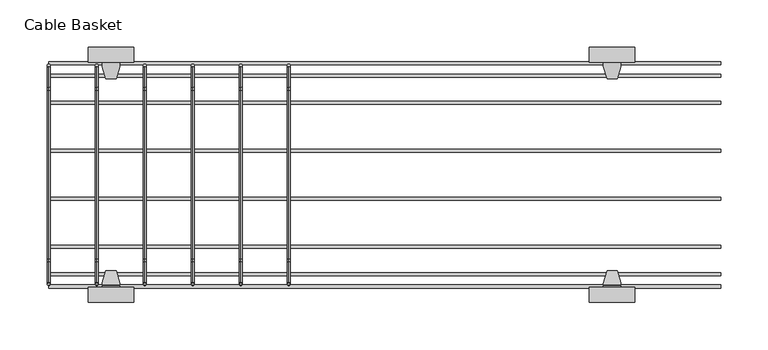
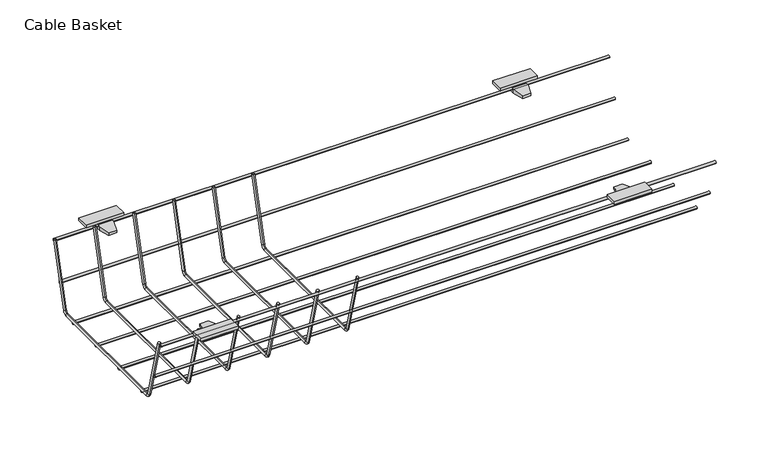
"""IFC4 building model written with IfcOpenShell, lengths in millimetres: furniture geometry, Senator_Lockers_SenseiQ_CableBasket : Cable Basket."""

from ifc_helpers import new_model, si_unit, point, frame, frame_2d, origin, place, context, project, spatial, polyline, circle_curve, ellipse_curve, trimmed, segment, composite_curve, outline, extrude, faceted_brep, source, transform, mapped, element, save
from ifc_brep_helpers import plane_surface, cylinder_surface, revolved_surface, advanced_brep


def cable_basket_caa5d707(model_context):
    return source(origin(), model_context, "Body", "SolidModel", [
        advanced_brep(
        [(5.9, -117.1901079, 90.4858785), (5.9, -114.0991453, 91.3140995), (5.9, -95.0858753, 7.9917594), (5.9, -91.9949127, 8.8199804), (5.9, -88.7107649, 6.2999651), (5.9, -88.7107649, 3.0999651), (5.9, 88.710803, 3.0999651), (5.9, 88.710803, 6.2999651), (5.9, 91.9949508, 8.8199804), (5.9, 95.0859135, 7.9917594), (5.9, 117.1901461, 90.4858785), (5.9, 114.0991834, 91.3140995)],
        [
            (0, 1, circle_curve(frame((5.9, -115.6446266, 90.899989), z_axis=(0.0, -0.25881904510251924, 0.9659258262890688), x_axis=(0.0, 0.9659258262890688, 0.25881904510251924)), 1.6)),
            (1, 0, circle_curve(frame((5.9, -115.6446266, 90.899989), z_axis=(0.0, -0.25881904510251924, 0.9659258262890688), x_axis=(0.0, 0.9659258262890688, 0.25881904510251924)), 1.6)),
            (0, 2),
            (2, 3, circle_curve(frame((5.9, -93.540394, 8.4058699), z_axis=(0.0, -0.25881904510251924, 0.9659258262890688), x_axis=(0.0, 0.9659258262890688, 0.25881904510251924)), 1.6)),
            (3, 1),
            (3, 2, circle_curve(frame((5.9, -93.540394, 8.4058699), z_axis=(0.0, -0.25881904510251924, 0.9659258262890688), x_axis=(0.0, 0.9659258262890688, 0.25881904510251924)), 1.6)),
            (4, 5, circle_curve(frame((5.9, -88.7107649, 4.6999651), z_axis=(0.0, 1.0, 0.0), x_axis=(0.0, 0.0, 1.0)), 1.6)),
            (5, 6),
            (6, 7, circle_curve(frame((5.9, 88.710803, 4.6999651), z_axis=(0.0, -1.0, 0.0), x_axis=(0.0, 0.0, 1.0)), 1.6)),
            (7, 4),
            (5, 4, circle_curve(frame((5.9, -88.7107649, 4.6999651), z_axis=(0.0, 1.0, 0.0), x_axis=(0.0, 0.0, 1.0)), 1.6)),
            (7, 6, circle_curve(frame((5.9, 88.710803, 4.6999651), z_axis=(0.0, -1.0, 0.0), x_axis=(0.0, 0.0, 1.0)), 1.6)),
            (8, 7, circle_curve(frame((5.9, 88.710803, 9.6999651), z_axis=(-1.0, 0.0, 0.0), x_axis=(0.0, 0.0, -1.0)), 3.4)),
            (6, 9, circle_curve(frame((5.9, 88.710803, 9.6999651), z_axis=(1.0, 0.0, 0.0), x_axis=(0.0, 0.0, -1.0)), 6.6)),
            (9, 8, circle_curve(frame((5.9, 93.5404322, 8.4058699), z_axis=(0.0, -0.2588190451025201, -0.9659258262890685), x_axis=(0.0, -0.9659258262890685, 0.2588190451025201)), 1.6)),
            (8, 9, circle_curve(frame((5.9, 93.5404322, 8.4058699), z_axis=(0.0, -0.25881904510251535, -0.9659258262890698), x_axis=(0.0, -0.9659258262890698, 0.25881904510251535)), 1.6)),
            (10, 11, circle_curve(frame((5.9, 115.6446648, 90.899989), z_axis=(0.0, 0.25881904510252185, 0.965925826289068), x_axis=(0.0, -0.965925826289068, 0.25881904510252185)), 1.6)),
            (11, 10, circle_curve(frame((5.9, 115.6446648, 90.899989), z_axis=(0.0, 0.25881904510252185, 0.965925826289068), x_axis=(0.0, -0.965925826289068, 0.25881904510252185)), 1.6)),
            (9, 10),
            (11, 8),
            (4, 3, circle_curve(frame((5.9, -88.7107649, 9.6999651), z_axis=(-1.0, 0.0, 0.0), x_axis=(0.0, -0.9659258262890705, -0.2588190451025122)), 3.4)),
            (2, 5, circle_curve(frame((5.9, -88.7107649, 9.6999651), z_axis=(1.0, 0.0, 0.0), x_axis=(0.0, -0.9659258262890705, -0.2588190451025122)), 6.6)),
        ],
        [
            plane_surface(frame((5.9, -115.6446266, 90.899989), z_axis=(0.0, -0.25881904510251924, 0.9659258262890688), x_axis=(1.0, 0.0, 0.0))),
            cylinder_surface(frame((5.9, -115.6446266, 90.899989), z_axis=(0.0, -0.25881904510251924, 0.9659258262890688), x_axis=(0.0, 0.9659258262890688, 0.25881904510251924)), 1.6),
            cylinder_surface(frame((5.9, -88.7107649, 4.6999651), z_axis=(0.0, -1.0, 0.0), x_axis=(0.0, 0.0, 1.0)), 1.6),
            revolved_surface(trimmed(ellipse_curve(frame((5.9, 88.710803, 4.6999651), z_axis=(0.0, -1.0, 0.0), x_axis=(0.0, 0.0, 1.0)), 1.6, 1.6), [point((5.9, 88.710803, 3.0999651))], [point((5.9, 88.710803, 6.2999651))], True, "CARTESIAN"), (5.9, 88.710803, 9.6999651), (1.0, 0.0, 0.0)),
            revolved_surface(trimmed(ellipse_curve(frame((5.9, 88.710803, 4.6999651), z_axis=(0.0, -1.0, 0.0), x_axis=(0.0, 0.0, 1.0)), 1.6, 1.6), [point((5.9, 88.710803, 6.2999651))], [point((5.9, 88.710803, 3.0999651))], True, "CARTESIAN"), (5.9, 88.710803, 9.6999651), (1.0, 0.0, 0.0)),
            plane_surface(frame((5.9, 115.6446648, 90.899989), z_axis=(0.0, 0.2588190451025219, 0.965925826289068), x_axis=(1.0, 0.0, 0.0))),
            cylinder_surface(frame((5.9, 93.5404322, 8.4058699), z_axis=(0.0, -0.25881904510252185, -0.965925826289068), x_axis=(0.0, -0.965925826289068, 0.25881904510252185)), 1.6),
            revolved_surface(trimmed(ellipse_curve(frame((5.9, -93.540394, 8.4058699), z_axis=(0.0, -0.2588190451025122, 0.9659258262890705), x_axis=(0.0, 0.9659258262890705, 0.2588190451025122)), 1.6, 1.6), [point((5.9, -95.0858753, 7.9917594))], [point((5.9, -91.9949127, 8.8199804))], True, "CARTESIAN"), (5.9, -88.7107649, 9.6999651), (1.0, 0.0, 0.0)),
            revolved_surface(trimmed(ellipse_curve(frame((5.9, -93.540394, 8.4058699), z_axis=(0.0, -0.2588190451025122, 0.9659258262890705), x_axis=(0.0, 0.9659258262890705, 0.2588190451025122)), 1.6, 1.6), [point((5.9, -91.9949127, 8.8199804))], [point((5.9, -95.0858753, 7.9917594))], True, "CARTESIAN"), (5.9, -88.7107649, 9.6999651), (1.0, 0.0, 0.0)),
        ],
        [
            (0, [[1, 2]]),
            (1, [[-1, 3, 4, 5]]),
            (1, [[-2, -5, 6, -3]]),
            (2, [[7, 8, 9, 10]]),
            (2, [[11, -10, 12, -8]]),
            (3, [[13, -9, 14, 15]]),
            (4, [[-14, -12, -13, 16]]),
            (5, [[17, 18]]),
            (6, [[-15, 19, -18, 20]]),
            (6, [[-16, -20, -17, -19]]),
            (7, [[21, -4, 22, -7]]),
            (8, [[-22, -6, -21, -11]]),
        ],
    ),
        advanced_brep(
        [(-44.9, -117.1901079, 90.4858785), (-44.9, -114.0991453, 91.3140995), (-44.9, -95.0858753, 7.9917594), (-44.9, -91.9949127, 8.8199804), (-44.9, -88.7107649, 6.2999651), (-44.9, -88.7107649, 3.0999651), (-44.9, 88.710803, 3.0999651), (-44.9, 88.710803, 6.2999651), (-44.9, 91.9949508, 8.8199804), (-44.9, 95.0859135, 7.9917594), (-44.9, 117.1901461, 90.4858785), (-44.9, 114.0991834, 91.3140995)],
        [
            (0, 1, circle_curve(frame((-44.9, -115.6446266, 90.899989), z_axis=(0.0, -0.25881904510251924, 0.9659258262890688), x_axis=(0.0, 0.9659258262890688, 0.25881904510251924)), 1.6)),
            (1, 0, circle_curve(frame((-44.9, -115.6446266, 90.899989), z_axis=(0.0, -0.25881904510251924, 0.9659258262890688), x_axis=(0.0, 0.9659258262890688, 0.25881904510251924)), 1.6)),
            (0, 2),
            (2, 3, circle_curve(frame((-44.9, -93.540394, 8.4058699), z_axis=(0.0, -0.25881904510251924, 0.9659258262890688), x_axis=(0.0, 0.9659258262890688, 0.25881904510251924)), 1.6)),
            (3, 1),
            (3, 2, circle_curve(frame((-44.9, -93.540394, 8.4058699), z_axis=(0.0, -0.25881904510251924, 0.9659258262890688), x_axis=(0.0, 0.9659258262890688, 0.25881904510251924)), 1.6)),
            (4, 5, circle_curve(frame((-44.9, -88.7107649, 4.6999651), z_axis=(0.0, 1.0, 0.0), x_axis=(0.0, 0.0, 1.0)), 1.6)),
            (5, 6),
            (6, 7, circle_curve(frame((-44.9, 88.710803, 4.6999651), z_axis=(0.0, -1.0, 0.0), x_axis=(0.0, 0.0, 1.0)), 1.6)),
            (7, 4),
            (5, 4, circle_curve(frame((-44.9, -88.7107649, 4.6999651), z_axis=(0.0, 1.0, 0.0), x_axis=(0.0, 0.0, 1.0)), 1.6)),
            (7, 6, circle_curve(frame((-44.9, 88.710803, 4.6999651), z_axis=(0.0, -1.0, 0.0), x_axis=(0.0, 0.0, 1.0)), 1.6)),
            (8, 7, circle_curve(frame((-44.9, 88.710803, 9.6999651), z_axis=(-1.0, 0.0, 0.0), x_axis=(0.0, 0.0, -1.0)), 3.4)),
            (6, 9, circle_curve(frame((-44.9, 88.710803, 9.6999651), z_axis=(1.0, 0.0, 0.0), x_axis=(0.0, 0.0, -1.0)), 6.6)),
            (9, 8, circle_curve(frame((-44.9, 93.5404322, 8.4058699), z_axis=(0.0, -0.2588190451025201, -0.9659258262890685), x_axis=(0.0, -0.9659258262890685, 0.2588190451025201)), 1.6)),
            (8, 9, circle_curve(frame((-44.9, 93.5404322, 8.4058699), z_axis=(0.0, -0.25881904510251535, -0.9659258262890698), x_axis=(0.0, -0.9659258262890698, 0.25881904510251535)), 1.6)),
            (10, 11, circle_curve(frame((-44.9, 115.6446648, 90.899989), z_axis=(0.0, 0.25881904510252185, 0.965925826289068), x_axis=(0.0, -0.965925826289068, 0.25881904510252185)), 1.6)),
            (11, 10, circle_curve(frame((-44.9, 115.6446648, 90.899989), z_axis=(0.0, 0.25881904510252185, 0.965925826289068), x_axis=(0.0, -0.965925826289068, 0.25881904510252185)), 1.6)),
            (9, 10),
            (11, 8),
            (4, 3, circle_curve(frame((-44.9, -88.7107649, 9.6999651), z_axis=(-1.0, 0.0, 0.0), x_axis=(0.0, -0.9659258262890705, -0.2588190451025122)), 3.4)),
            (2, 5, circle_curve(frame((-44.9, -88.7107649, 9.6999651), z_axis=(1.0, 0.0, 0.0), x_axis=(0.0, -0.9659258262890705, -0.2588190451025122)), 6.6)),
        ],
        [
            plane_surface(frame((-44.9, -115.6446266, 90.899989), z_axis=(0.0, -0.25881904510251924, 0.9659258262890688), x_axis=(1.0, 0.0, 0.0))),
            cylinder_surface(frame((-44.9, -115.6446266, 90.899989), z_axis=(0.0, -0.25881904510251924, 0.9659258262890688), x_axis=(0.0, 0.9659258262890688, 0.25881904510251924)), 1.6),
            cylinder_surface(frame((-44.9, -88.7107649, 4.6999651), z_axis=(0.0, -1.0, 0.0), x_axis=(0.0, 0.0, 1.0)), 1.6),
            revolved_surface(trimmed(ellipse_curve(frame((-44.9, 88.710803, 4.6999651), z_axis=(0.0, -1.0, 0.0), x_axis=(0.0, 0.0, 1.0)), 1.6, 1.6), [point((-44.9, 88.710803, 3.0999651))], [point((-44.9, 88.710803, 6.2999651))], True, "CARTESIAN"), (-44.9, 88.710803, 9.6999651), (1.0, 0.0, 0.0)),
            revolved_surface(trimmed(ellipse_curve(frame((-44.9, 88.710803, 4.6999651), z_axis=(0.0, -1.0, 0.0), x_axis=(0.0, 0.0, 1.0)), 1.6, 1.6), [point((-44.9, 88.710803, 6.2999651))], [point((-44.9, 88.710803, 3.0999651))], True, "CARTESIAN"), (-44.9, 88.710803, 9.6999651), (1.0, 0.0, 0.0)),
            plane_surface(frame((-44.9, 115.6446648, 90.899989), z_axis=(0.0, 0.2588190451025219, 0.965925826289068), x_axis=(1.0, 0.0, 0.0))),
            cylinder_surface(frame((-44.9, 93.5404322, 8.4058699), z_axis=(0.0, -0.25881904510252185, -0.965925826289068), x_axis=(0.0, -0.965925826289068, 0.25881904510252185)), 1.6),
            revolved_surface(trimmed(ellipse_curve(frame((-44.9, -93.540394, 8.4058699), z_axis=(0.0, -0.2588190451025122, 0.9659258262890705), x_axis=(0.0, 0.9659258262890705, 0.2588190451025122)), 1.6, 1.6), [point((-44.9, -95.0858753, 7.9917594))], [point((-44.9, -91.9949127, 8.8199804))], True, "CARTESIAN"), (-44.9, -88.7107649, 9.6999651), (1.0, 0.0, 0.0)),
            revolved_surface(trimmed(ellipse_curve(frame((-44.9, -93.540394, 8.4058699), z_axis=(0.0, -0.2588190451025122, 0.9659258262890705), x_axis=(0.0, 0.9659258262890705, 0.2588190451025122)), 1.6, 1.6), [point((-44.9, -91.9949127, 8.8199804))], [point((-44.9, -95.0858753, 7.9917594))], True, "CARTESIAN"), (-44.9, -88.7107649, 9.6999651), (1.0, 0.0, 0.0)),
        ],
        [
            (0, [[1, 2]]),
            (1, [[-1, 3, 4, 5]]),
            (1, [[-2, -5, 6, -3]]),
            (2, [[7, 8, 9, 10]]),
            (2, [[11, -10, 12, -8]]),
            (3, [[13, -9, 14, 15]]),
            (4, [[-14, -12, -13, 16]]),
            (5, [[17, 18]]),
            (6, [[-15, 19, -18, 20]]),
            (6, [[-16, -20, -17, -19]]),
            (7, [[21, -4, 22, -7]]),
            (8, [[-22, -6, -21, -11]]),
        ],
    ),
        advanced_brep(
        [(-95.7, -117.1901079, 90.4858785), (-95.7, -114.0991453, 91.3140995), (-95.7, -95.0858753, 7.9917594), (-95.7, -91.9949127, 8.8199804), (-95.7, -88.7107649, 6.2999651), (-95.7, -88.7107649, 3.0999651), (-95.7, 88.710803, 3.0999651), (-95.7, 88.710803, 6.2999651), (-95.7, 91.9949508, 8.8199804), (-95.7, 95.0859135, 7.9917594), (-95.7, 117.1901461, 90.4858785), (-95.7, 114.0991834, 91.3140995)],
        [
            (0, 1, circle_curve(frame((-95.7, -115.6446266, 90.899989), z_axis=(0.0, -0.25881904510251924, 0.9659258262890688), x_axis=(0.0, 0.9659258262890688, 0.25881904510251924)), 1.6)),
            (1, 0, circle_curve(frame((-95.7, -115.6446266, 90.899989), z_axis=(0.0, -0.25881904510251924, 0.9659258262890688), x_axis=(0.0, 0.9659258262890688, 0.25881904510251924)), 1.6)),
            (0, 2),
            (2, 3, circle_curve(frame((-95.7, -93.540394, 8.4058699), z_axis=(0.0, -0.25881904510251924, 0.9659258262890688), x_axis=(0.0, 0.9659258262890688, 0.25881904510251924)), 1.6)),
            (3, 1),
            (3, 2, circle_curve(frame((-95.7, -93.540394, 8.4058699), z_axis=(0.0, -0.25881904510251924, 0.9659258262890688), x_axis=(0.0, 0.9659258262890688, 0.25881904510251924)), 1.6)),
            (4, 5, circle_curve(frame((-95.7, -88.7107649, 4.6999651), z_axis=(0.0, 1.0, 0.0), x_axis=(0.0, 0.0, 1.0)), 1.6)),
            (5, 6),
            (6, 7, circle_curve(frame((-95.7, 88.710803, 4.6999651), z_axis=(0.0, -1.0, 0.0), x_axis=(0.0, 0.0, 1.0)), 1.6)),
            (7, 4),
            (5, 4, circle_curve(frame((-95.7, -88.7107649, 4.6999651), z_axis=(0.0, 1.0, 0.0), x_axis=(0.0, 0.0, 1.0)), 1.6)),
            (7, 6, circle_curve(frame((-95.7, 88.710803, 4.6999651), z_axis=(0.0, -1.0, 0.0), x_axis=(0.0, 0.0, 1.0)), 1.6)),
            (8, 7, circle_curve(frame((-95.7, 88.710803, 9.6999651), z_axis=(-1.0, 0.0, 0.0), x_axis=(0.0, 0.0, -1.0)), 3.4)),
            (6, 9, circle_curve(frame((-95.7, 88.710803, 9.6999651), z_axis=(1.0, 0.0, 0.0), x_axis=(0.0, 0.0, -1.0)), 6.6)),
            (9, 8, circle_curve(frame((-95.7, 93.5404322, 8.4058699), z_axis=(0.0, -0.2588190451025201, -0.9659258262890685), x_axis=(0.0, -0.9659258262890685, 0.2588190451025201)), 1.6)),
            (8, 9, circle_curve(frame((-95.7, 93.5404322, 8.4058699), z_axis=(0.0, -0.25881904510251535, -0.9659258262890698), x_axis=(0.0, -0.9659258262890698, 0.25881904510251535)), 1.6)),
            (10, 11, circle_curve(frame((-95.7, 115.6446648, 90.899989), z_axis=(0.0, 0.25881904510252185, 0.965925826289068), x_axis=(0.0, -0.965925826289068, 0.25881904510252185)), 1.6)),
            (11, 10, circle_curve(frame((-95.7, 115.6446648, 90.899989), z_axis=(0.0, 0.25881904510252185, 0.965925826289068), x_axis=(0.0, -0.965925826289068, 0.25881904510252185)), 1.6)),
            (9, 10),
            (11, 8),
            (4, 3, circle_curve(frame((-95.7, -88.7107649, 9.6999651), z_axis=(-1.0, 0.0, 0.0), x_axis=(0.0, -0.9659258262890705, -0.2588190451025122)), 3.4)),
            (2, 5, circle_curve(frame((-95.7, -88.7107649, 9.6999651), z_axis=(1.0, 0.0, 0.0), x_axis=(0.0, -0.9659258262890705, -0.2588190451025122)), 6.6)),
        ],
        [
            plane_surface(frame((-95.7, -115.6446266, 90.899989), z_axis=(0.0, -0.25881904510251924, 0.9659258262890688), x_axis=(1.0, 0.0, 0.0))),
            cylinder_surface(frame((-95.7, -115.6446266, 90.899989), z_axis=(0.0, -0.25881904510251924, 0.9659258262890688), x_axis=(0.0, 0.9659258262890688, 0.25881904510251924)), 1.6),
            cylinder_surface(frame((-95.7, -88.7107649, 4.6999651), z_axis=(0.0, -1.0, 0.0), x_axis=(0.0, 0.0, 1.0)), 1.6),
            revolved_surface(trimmed(ellipse_curve(frame((-95.7, 88.710803, 4.6999651), z_axis=(0.0, -1.0, 0.0), x_axis=(0.0, 0.0, 1.0)), 1.6, 1.6), [point((-95.7, 88.710803, 3.0999651))], [point((-95.7, 88.710803, 6.2999651))], True, "CARTESIAN"), (-95.7, 88.710803, 9.6999651), (1.0, 0.0, 0.0)),
            revolved_surface(trimmed(ellipse_curve(frame((-95.7, 88.710803, 4.6999651), z_axis=(0.0, -1.0, 0.0), x_axis=(0.0, 0.0, 1.0)), 1.6, 1.6), [point((-95.7, 88.710803, 6.2999651))], [point((-95.7, 88.710803, 3.0999651))], True, "CARTESIAN"), (-95.7, 88.710803, 9.6999651), (1.0, 0.0, 0.0)),
            plane_surface(frame((-95.7, 115.6446648, 90.899989), z_axis=(0.0, 0.2588190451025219, 0.965925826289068), x_axis=(1.0, 0.0, 0.0))),
            cylinder_surface(frame((-95.7, 93.5404322, 8.4058699), z_axis=(0.0, -0.25881904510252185, -0.965925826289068), x_axis=(0.0, -0.965925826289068, 0.25881904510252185)), 1.6),
            revolved_surface(trimmed(ellipse_curve(frame((-95.7, -93.540394, 8.4058699), z_axis=(0.0, -0.2588190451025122, 0.9659258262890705), x_axis=(0.0, 0.9659258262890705, 0.2588190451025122)), 1.6, 1.6), [point((-95.7, -95.0858753, 7.9917594))], [point((-95.7, -91.9949127, 8.8199804))], True, "CARTESIAN"), (-95.7, -88.7107649, 9.6999651), (1.0, 0.0, 0.0)),
            revolved_surface(trimmed(ellipse_curve(frame((-95.7, -93.540394, 8.4058699), z_axis=(0.0, -0.2588190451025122, 0.9659258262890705), x_axis=(0.0, 0.9659258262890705, 0.2588190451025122)), 1.6, 1.6), [point((-95.7, -91.9949127, 8.8199804))], [point((-95.7, -95.0858753, 7.9917594))], True, "CARTESIAN"), (-95.7, -88.7107649, 9.6999651), (1.0, 0.0, 0.0)),
        ],
        [
            (0, [[1, 2]]),
            (1, [[-1, 3, 4, 5]]),
            (1, [[-2, -5, 6, -3]]),
            (2, [[7, 8, 9, 10]]),
            (2, [[11, -10, 12, -8]]),
            (3, [[13, -9, 14, 15]]),
            (4, [[-14, -12, -13, 16]]),
            (5, [[17, 18]]),
            (6, [[-15, 19, -18, 20]]),
            (6, [[-16, -20, -17, -19]]),
            (7, [[21, -4, 22, -7]]),
            (8, [[-22, -6, -21, -11]]),
        ],
    ),
        advanced_brep(
        [(-146.5, -117.1901079, 90.4858785), (-146.5, -114.0991453, 91.3140995), (-146.5, -95.0858753, 7.9917594), (-146.5, -91.9949127, 8.8199804), (-146.5, -88.7107649, 6.2999651), (-146.5, -88.7107649, 3.0999651), (-146.5, 88.710803, 3.0999651), (-146.5, 88.710803, 6.2999651), (-146.5, 91.9949508, 8.8199804), (-146.5, 95.0859135, 7.9917594), (-146.5, 117.1901461, 90.4858785), (-146.5, 114.0991834, 91.3140995)],
        [
            (0, 1, circle_curve(frame((-146.5, -115.6446266, 90.899989), z_axis=(0.0, -0.25881904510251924, 0.9659258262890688), x_axis=(0.0, 0.9659258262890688, 0.25881904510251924)), 1.6)),
            (1, 0, circle_curve(frame((-146.5, -115.6446266, 90.899989), z_axis=(0.0, -0.25881904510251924, 0.9659258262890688), x_axis=(0.0, 0.9659258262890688, 0.25881904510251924)), 1.6)),
            (0, 2),
            (2, 3, circle_curve(frame((-146.5, -93.540394, 8.4058699), z_axis=(0.0, -0.25881904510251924, 0.9659258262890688), x_axis=(0.0, 0.9659258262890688, 0.25881904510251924)), 1.6)),
            (3, 1),
            (3, 2, circle_curve(frame((-146.5, -93.540394, 8.4058699), z_axis=(0.0, -0.25881904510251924, 0.9659258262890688), x_axis=(0.0, 0.9659258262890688, 0.25881904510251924)), 1.6)),
            (4, 5, circle_curve(frame((-146.5, -88.7107649, 4.6999651), z_axis=(0.0, 1.0, 0.0), x_axis=(0.0, 0.0, 1.0)), 1.6)),
            (5, 6),
            (6, 7, circle_curve(frame((-146.5, 88.710803, 4.6999651), z_axis=(0.0, -1.0, 0.0), x_axis=(0.0, 0.0, 1.0)), 1.6)),
            (7, 4),
            (5, 4, circle_curve(frame((-146.5, -88.7107649, 4.6999651), z_axis=(0.0, 1.0, 0.0), x_axis=(0.0, 0.0, 1.0)), 1.6)),
            (7, 6, circle_curve(frame((-146.5, 88.710803, 4.6999651), z_axis=(0.0, -1.0, 0.0), x_axis=(0.0, 0.0, 1.0)), 1.6)),
            (8, 7, circle_curve(frame((-146.5, 88.710803, 9.6999651), z_axis=(-1.0, 0.0, 0.0), x_axis=(0.0, 0.0, -1.0)), 3.4)),
            (6, 9, circle_curve(frame((-146.5, 88.710803, 9.6999651), z_axis=(1.0, 0.0, 0.0), x_axis=(0.0, 0.0, -1.0)), 6.6)),
            (9, 8, circle_curve(frame((-146.5, 93.5404322, 8.4058699), z_axis=(0.0, -0.2588190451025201, -0.9659258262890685), x_axis=(0.0, -0.9659258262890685, 0.2588190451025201)), 1.6)),
            (8, 9, circle_curve(frame((-146.5, 93.5404322, 8.4058699), z_axis=(0.0, -0.25881904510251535, -0.9659258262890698), x_axis=(0.0, -0.9659258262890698, 0.25881904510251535)), 1.6)),
            (10, 11, circle_curve(frame((-146.5, 115.6446648, 90.899989), z_axis=(0.0, 0.25881904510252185, 0.965925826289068), x_axis=(0.0, -0.965925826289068, 0.25881904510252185)), 1.6)),
            (11, 10, circle_curve(frame((-146.5, 115.6446648, 90.899989), z_axis=(0.0, 0.25881904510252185, 0.965925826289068), x_axis=(0.0, -0.965925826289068, 0.25881904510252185)), 1.6)),
            (9, 10),
            (11, 8),
            (4, 3, circle_curve(frame((-146.5, -88.7107649, 9.6999651), z_axis=(-1.0, 0.0, 0.0), x_axis=(0.0, -0.9659258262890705, -0.2588190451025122)), 3.4)),
            (2, 5, circle_curve(frame((-146.5, -88.7107649, 9.6999651), z_axis=(1.0, 0.0, 0.0), x_axis=(0.0, -0.9659258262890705, -0.2588190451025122)), 6.6)),
        ],
        [
            plane_surface(frame((-146.5, -115.6446266, 90.899989), z_axis=(0.0, -0.25881904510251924, 0.9659258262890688), x_axis=(1.0, 0.0, 0.0))),
            cylinder_surface(frame((-146.5, -115.6446266, 90.899989), z_axis=(0.0, -0.25881904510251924, 0.9659258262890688), x_axis=(0.0, 0.9659258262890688, 0.25881904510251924)), 1.6),
            cylinder_surface(frame((-146.5, -88.7107649, 4.6999651), z_axis=(0.0, -1.0, 0.0), x_axis=(0.0, 0.0, 1.0)), 1.6),
            revolved_surface(trimmed(ellipse_curve(frame((-146.5, 88.710803, 4.6999651), z_axis=(0.0, -1.0, 0.0), x_axis=(0.0, 0.0, 1.0)), 1.6, 1.6), [point((-146.5, 88.710803, 3.0999651))], [point((-146.5, 88.710803, 6.2999651))], True, "CARTESIAN"), (-146.5, 88.710803, 9.6999651), (1.0, 0.0, 0.0)),
            revolved_surface(trimmed(ellipse_curve(frame((-146.5, 88.710803, 4.6999651), z_axis=(0.0, -1.0, 0.0), x_axis=(0.0, 0.0, 1.0)), 1.6, 1.6), [point((-146.5, 88.710803, 6.2999651))], [point((-146.5, 88.710803, 3.0999651))], True, "CARTESIAN"), (-146.5, 88.710803, 9.6999651), (1.0, 0.0, 0.0)),
            plane_surface(frame((-146.5, 115.6446648, 90.899989), z_axis=(0.0, 0.2588190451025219, 0.965925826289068), x_axis=(1.0, 0.0, 0.0))),
            cylinder_surface(frame((-146.5, 93.5404322, 8.4058699), z_axis=(0.0, -0.25881904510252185, -0.965925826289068), x_axis=(0.0, -0.965925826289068, 0.25881904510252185)), 1.6),
            revolved_surface(trimmed(ellipse_curve(frame((-146.5, -93.540394, 8.4058699), z_axis=(0.0, -0.2588190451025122, 0.9659258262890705), x_axis=(0.0, 0.9659258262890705, 0.2588190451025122)), 1.6, 1.6), [point((-146.5, -95.0858753, 7.9917594))], [point((-146.5, -91.9949127, 8.8199804))], True, "CARTESIAN"), (-146.5, -88.7107649, 9.6999651), (1.0, 0.0, 0.0)),
            revolved_surface(trimmed(ellipse_curve(frame((-146.5, -93.540394, 8.4058699), z_axis=(0.0, -0.2588190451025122, 0.9659258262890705), x_axis=(0.0, 0.9659258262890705, 0.2588190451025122)), 1.6, 1.6), [point((-146.5, -91.9949127, 8.8199804))], [point((-146.5, -95.0858753, 7.9917594))], True, "CARTESIAN"), (-146.5, -88.7107649, 9.6999651), (1.0, 0.0, 0.0)),
        ],
        [
            (0, [[1, 2]]),
            (1, [[-1, 3, 4, 5]]),
            (1, [[-2, -5, 6, -3]]),
            (2, [[7, 8, 9, 10]]),
            (2, [[11, -10, 12, -8]]),
            (3, [[13, -9, 14, 15]]),
            (4, [[-14, -12, -13, 16]]),
            (5, [[17, 18]]),
            (6, [[-15, 19, -18, 20]]),
            (6, [[-16, -20, -17, -19]]),
            (7, [[21, -4, 22, -7]]),
            (8, [[-22, -6, -21, -11]]),
        ],
    ),
        advanced_brep(
        [(-197.3, -117.1901079, 90.4858785), (-197.3, -114.0991453, 91.3140995), (-197.3, -95.0858753, 7.9917594), (-197.3, -91.9949127, 8.8199804), (-197.3, -88.7107649, 6.2999651), (-197.3, -88.7107649, 3.0999651), (-197.3, 88.710803, 3.0999651), (-197.3, 88.710803, 6.2999651), (-197.3, 91.9949508, 8.8199804), (-197.3, 95.0859135, 7.9917594), (-197.3, 117.1901461, 90.4858785), (-197.3, 114.0991834, 91.3140995)],
        [
            (0, 1, circle_curve(frame((-197.3, -115.6446266, 90.899989), z_axis=(0.0, -0.25881904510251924, 0.9659258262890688), x_axis=(0.0, 0.9659258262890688, 0.25881904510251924)), 1.6)),
            (1, 0, circle_curve(frame((-197.3, -115.6446266, 90.899989), z_axis=(0.0, -0.25881904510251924, 0.9659258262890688), x_axis=(0.0, 0.9659258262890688, 0.25881904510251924)), 1.6)),
            (0, 2),
            (2, 3, circle_curve(frame((-197.3, -93.540394, 8.4058699), z_axis=(0.0, -0.25881904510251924, 0.9659258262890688), x_axis=(0.0, 0.9659258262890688, 0.25881904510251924)), 1.6)),
            (3, 1),
            (3, 2, circle_curve(frame((-197.3, -93.540394, 8.4058699), z_axis=(0.0, -0.25881904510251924, 0.9659258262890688), x_axis=(0.0, 0.9659258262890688, 0.25881904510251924)), 1.6)),
            (4, 5, circle_curve(frame((-197.3, -88.7107649, 4.6999651), z_axis=(0.0, 1.0, 0.0), x_axis=(0.0, 0.0, 1.0)), 1.6)),
            (5, 6),
            (6, 7, circle_curve(frame((-197.3, 88.710803, 4.6999651), z_axis=(0.0, -1.0, 0.0), x_axis=(0.0, 0.0, 1.0)), 1.6)),
            (7, 4),
            (5, 4, circle_curve(frame((-197.3, -88.7107649, 4.6999651), z_axis=(0.0, 1.0, 0.0), x_axis=(0.0, 0.0, 1.0)), 1.6)),
            (7, 6, circle_curve(frame((-197.3, 88.710803, 4.6999651), z_axis=(0.0, -1.0, 0.0), x_axis=(0.0, 0.0, 1.0)), 1.6)),
            (8, 7, circle_curve(frame((-197.3, 88.710803, 9.6999651), z_axis=(-1.0, 0.0, 0.0), x_axis=(0.0, 0.0, -1.0)), 3.4)),
            (6, 9, circle_curve(frame((-197.3, 88.710803, 9.6999651), z_axis=(1.0, 0.0, 0.0), x_axis=(0.0, 0.0, -1.0)), 6.6)),
            (9, 8, circle_curve(frame((-197.3, 93.5404322, 8.4058699), z_axis=(0.0, -0.2588190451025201, -0.9659258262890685), x_axis=(0.0, -0.9659258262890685, 0.2588190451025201)), 1.6)),
            (8, 9, circle_curve(frame((-197.3, 93.5404322, 8.4058699), z_axis=(0.0, -0.25881904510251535, -0.9659258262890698), x_axis=(0.0, -0.9659258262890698, 0.25881904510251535)), 1.6)),
            (10, 11, circle_curve(frame((-197.3, 115.6446648, 90.899989), z_axis=(0.0, 0.25881904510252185, 0.965925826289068), x_axis=(0.0, -0.965925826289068, 0.25881904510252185)), 1.6)),
            (11, 10, circle_curve(frame((-197.3, 115.6446648, 90.899989), z_axis=(0.0, 0.25881904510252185, 0.965925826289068), x_axis=(0.0, -0.965925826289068, 0.25881904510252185)), 1.6)),
            (9, 10),
            (11, 8),
            (4, 3, circle_curve(frame((-197.3, -88.7107649, 9.6999651), z_axis=(-1.0, 0.0, 0.0), x_axis=(0.0, -0.9659258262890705, -0.2588190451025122)), 3.4)),
            (2, 5, circle_curve(frame((-197.3, -88.7107649, 9.6999651), z_axis=(1.0, 0.0, 0.0), x_axis=(0.0, -0.9659258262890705, -0.2588190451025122)), 6.6)),
        ],
        [
            plane_surface(frame((-197.3, -115.6446266, 90.899989), z_axis=(0.0, -0.25881904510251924, 0.9659258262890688), x_axis=(1.0, 0.0, 0.0))),
            cylinder_surface(frame((-197.3, -115.6446266, 90.899989), z_axis=(0.0, -0.25881904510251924, 0.9659258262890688), x_axis=(0.0, 0.9659258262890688, 0.25881904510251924)), 1.6),
            cylinder_surface(frame((-197.3, -88.7107649, 4.6999651), z_axis=(0.0, -1.0, 0.0), x_axis=(0.0, 0.0, 1.0)), 1.6),
            revolved_surface(trimmed(ellipse_curve(frame((-197.3, 88.710803, 4.6999651), z_axis=(0.0, -1.0, 0.0), x_axis=(0.0, 0.0, 1.0)), 1.6, 1.6), [point((-197.3, 88.710803, 3.0999651))], [point((-197.3, 88.710803, 6.2999651))], True, "CARTESIAN"), (-197.3, 88.710803, 9.6999651), (1.0, 0.0, 0.0)),
            revolved_surface(trimmed(ellipse_curve(frame((-197.3, 88.710803, 4.6999651), z_axis=(0.0, -1.0, 0.0), x_axis=(0.0, 0.0, 1.0)), 1.6, 1.6), [point((-197.3, 88.710803, 6.2999651))], [point((-197.3, 88.710803, 3.0999651))], True, "CARTESIAN"), (-197.3, 88.710803, 9.6999651), (1.0, 0.0, 0.0)),
            plane_surface(frame((-197.3, 115.6446648, 90.899989), z_axis=(0.0, 0.2588190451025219, 0.965925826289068), x_axis=(1.0, 0.0, 0.0))),
            cylinder_surface(frame((-197.3, 93.5404322, 8.4058699), z_axis=(0.0, -0.25881904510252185, -0.965925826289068), x_axis=(0.0, -0.965925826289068, 0.25881904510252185)), 1.6),
            revolved_surface(trimmed(ellipse_curve(frame((-197.3, -93.540394, 8.4058699), z_axis=(0.0, -0.2588190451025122, 0.9659258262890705), x_axis=(0.0, 0.9659258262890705, 0.2588190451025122)), 1.6, 1.6), [point((-197.3, -95.0858753, 7.9917594))], [point((-197.3, -91.9949127, 8.8199804))], True, "CARTESIAN"), (-197.3, -88.7107649, 9.6999651), (1.0, 0.0, 0.0)),
            revolved_surface(trimmed(ellipse_curve(frame((-197.3, -93.540394, 8.4058699), z_axis=(0.0, -0.2588190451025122, 0.9659258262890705), x_axis=(0.0, 0.9659258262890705, 0.2588190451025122)), 1.6, 1.6), [point((-197.3, -91.9949127, 8.8199804))], [point((-197.3, -95.0858753, 7.9917594))], True, "CARTESIAN"), (-197.3, -88.7107649, 9.6999651), (1.0, 0.0, 0.0)),
        ],
        [
            (0, [[1, 2]]),
            (1, [[-1, 3, 4, 5]]),
            (1, [[-2, -5, 6, -3]]),
            (2, [[7, 8, 9, 10]]),
            (2, [[11, -10, 12, -8]]),
            (3, [[13, -9, 14, 15]]),
            (4, [[-14, -12, -13, 16]]),
            (5, [[17, 18]]),
            (6, [[-15, 19, -18, 20]]),
            (6, [[-16, -20, -17, -19]]),
            (7, [[21, -4, 22, -7]]),
            (8, [[-22, -6, -21, -11]]),
        ],
    ),
        advanced_brep(
        [(-248.1, -117.1901079, 90.4858785), (-248.1, -114.0991453, 91.3140995), (-248.1, -95.0858753, 7.9917594), (-248.1, -91.9949127, 8.8199804), (-248.1, -88.7107649, 6.2999651), (-248.1, -88.7107649, 3.0999651), (-248.1, 88.710803, 3.0999651), (-248.1, 88.710803, 6.2999651), (-248.1, 91.9949508, 8.8199804), (-248.1, 95.0859135, 7.9917594), (-248.1, 117.1901461, 90.4858785), (-248.1, 114.0991834, 91.3140995)],
        [
            (0, 1, circle_curve(frame((-248.1, -115.6446266, 90.899989), z_axis=(0.0, -0.25881904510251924, 0.9659258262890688), x_axis=(0.0, 0.9659258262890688, 0.25881904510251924)), 1.6)),
            (1, 0, circle_curve(frame((-248.1, -115.6446266, 90.899989), z_axis=(0.0, -0.25881904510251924, 0.9659258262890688), x_axis=(0.0, 0.9659258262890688, 0.25881904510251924)), 1.6)),
            (0, 2),
            (2, 3, circle_curve(frame((-248.1, -93.540394, 8.4058699), z_axis=(0.0, -0.25881904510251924, 0.9659258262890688), x_axis=(0.0, 0.9659258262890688, 0.25881904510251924)), 1.6)),
            (3, 1),
            (3, 2, circle_curve(frame((-248.1, -93.540394, 8.4058699), z_axis=(0.0, -0.25881904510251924, 0.9659258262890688), x_axis=(0.0, 0.9659258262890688, 0.25881904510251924)), 1.6)),
            (4, 5, circle_curve(frame((-248.1, -88.7107649, 4.6999651), z_axis=(0.0, 1.0, 0.0), x_axis=(0.0, 0.0, 1.0)), 1.6)),
            (5, 6),
            (6, 7, circle_curve(frame((-248.1, 88.710803, 4.6999651), z_axis=(0.0, -1.0, 0.0), x_axis=(0.0, 0.0, 1.0)), 1.6)),
            (7, 4),
            (5, 4, circle_curve(frame((-248.1, -88.7107649, 4.6999651), z_axis=(0.0, 1.0, 0.0), x_axis=(0.0, 0.0, 1.0)), 1.6)),
            (7, 6, circle_curve(frame((-248.1, 88.710803, 4.6999651), z_axis=(0.0, -1.0, 0.0), x_axis=(0.0, 0.0, 1.0)), 1.6)),
            (8, 7, circle_curve(frame((-248.1, 88.710803, 9.6999651), z_axis=(-1.0, 0.0, 0.0), x_axis=(0.0, 0.0, -1.0)), 3.4)),
            (6, 9, circle_curve(frame((-248.1, 88.710803, 9.6999651), z_axis=(1.0, 0.0, 0.0), x_axis=(0.0, 0.0, -1.0)), 6.6)),
            (9, 8, circle_curve(frame((-248.1, 93.5404322, 8.4058699), z_axis=(0.0, -0.2588190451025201, -0.9659258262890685), x_axis=(0.0, -0.9659258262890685, 0.2588190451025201)), 1.6)),
            (8, 9, circle_curve(frame((-248.1, 93.5404322, 8.4058699), z_axis=(0.0, -0.25881904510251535, -0.9659258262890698), x_axis=(0.0, -0.9659258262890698, 0.25881904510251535)), 1.6)),
            (10, 11, circle_curve(frame((-248.1, 115.6446648, 90.899989), z_axis=(0.0, 0.25881904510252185, 0.965925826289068), x_axis=(0.0, -0.965925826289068, 0.25881904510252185)), 1.6)),
            (11, 10, circle_curve(frame((-248.1, 115.6446648, 90.899989), z_axis=(0.0, 0.25881904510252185, 0.965925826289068), x_axis=(0.0, -0.965925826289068, 0.25881904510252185)), 1.6)),
            (9, 10),
            (11, 8),
            (4, 3, circle_curve(frame((-248.1, -88.7107649, 9.6999651), z_axis=(-1.0, 0.0, 0.0), x_axis=(0.0, -0.9659258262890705, -0.2588190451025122)), 3.4)),
            (2, 5, circle_curve(frame((-248.1, -88.7107649, 9.6999651), z_axis=(1.0, 0.0, 0.0), x_axis=(0.0, -0.9659258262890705, -0.2588190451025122)), 6.6)),
        ],
        [
            plane_surface(frame((-248.1, -115.6446266, 90.899989), z_axis=(0.0, -0.25881904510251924, 0.9659258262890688), x_axis=(1.0, 0.0, 0.0))),
            cylinder_surface(frame((-248.1, -115.6446266, 90.899989), z_axis=(0.0, -0.25881904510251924, 0.9659258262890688), x_axis=(0.0, 0.9659258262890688, 0.25881904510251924)), 1.6),
            cylinder_surface(frame((-248.1, -88.7107649, 4.6999651), z_axis=(0.0, -1.0, 0.0), x_axis=(0.0, 0.0, 1.0)), 1.6),
            revolved_surface(trimmed(ellipse_curve(frame((-248.1, 88.710803, 4.6999651), z_axis=(0.0, -1.0, 0.0), x_axis=(0.0, 0.0, 1.0)), 1.6, 1.6), [point((-248.1, 88.710803, 3.0999651))], [point((-248.1, 88.710803, 6.2999651))], True, "CARTESIAN"), (-248.1, 88.710803, 9.6999651), (1.0, 0.0, 0.0)),
            revolved_surface(trimmed(ellipse_curve(frame((-248.1, 88.710803, 4.6999651), z_axis=(0.0, -1.0, 0.0), x_axis=(0.0, 0.0, 1.0)), 1.6, 1.6), [point((-248.1, 88.710803, 6.2999651))], [point((-248.1, 88.710803, 3.0999651))], True, "CARTESIAN"), (-248.1, 88.710803, 9.6999651), (1.0, 0.0, 0.0)),
            plane_surface(frame((-248.1, 115.6446648, 90.899989), z_axis=(0.0, 0.2588190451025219, 0.965925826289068), x_axis=(1.0, 0.0, 0.0))),
            cylinder_surface(frame((-248.1, 93.5404322, 8.4058699), z_axis=(0.0, -0.25881904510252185, -0.965925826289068), x_axis=(0.0, -0.965925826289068, 0.25881904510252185)), 1.6),
            revolved_surface(trimmed(ellipse_curve(frame((-248.1, -93.540394, 8.4058699), z_axis=(0.0, -0.2588190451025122, 0.9659258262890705), x_axis=(0.0, 0.9659258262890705, 0.2588190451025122)), 1.6, 1.6), [point((-248.1, -95.0858753, 7.9917594))], [point((-248.1, -91.9949127, 8.8199804))], True, "CARTESIAN"), (-248.1, -88.7107649, 9.6999651), (1.0, 0.0, 0.0)),
            revolved_surface(trimmed(ellipse_curve(frame((-248.1, -93.540394, 8.4058699), z_axis=(0.0, -0.2588190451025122, 0.9659258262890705), x_axis=(0.0, 0.9659258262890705, 0.2588190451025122)), 1.6, 1.6), [point((-248.1, -91.9949127, 8.8199804))], [point((-248.1, -95.0858753, 7.9917594))], True, "CARTESIAN"), (-248.1, -88.7107649, 9.6999651), (1.0, 0.0, 0.0)),
        ],
        [
            (0, [[1, 2]]),
            (1, [[-1, 3, 4, 5]]),
            (1, [[-2, -5, 6, -3]]),
            (2, [[7, 8, 9, 10]]),
            (2, [[11, -10, 12, -8]]),
            (3, [[13, -9, 14, 15]]),
            (4, [[-14, -12, -13, 16]]),
            (5, [[17, 18]]),
            (6, [[-15, 19, -18, 20]]),
            (6, [[-16, -20, -17, -19]]),
            (7, [[21, -4, 22, -7]]),
            (8, [[-22, -6, -21, -11]]),
        ],
    ),
        extrude(outline(polyline([(324.067009, 135.0), (372.0670014, 135.0), (372.0670014, 119.0000057), (324.067009, 119.0000057), (324.067009, 135.0)])), frame((0.0, 0.0, 89.8434609), z_axis=(0.0, 0.0, 1.0), x_axis=(1.0, 0.0, 0.0)), (0.0, 0.0, 1.0), 3.9999962),
        faceted_brep([(338.9442585, -118.9601904, 89.8434609), (338.9442585, -135.0, 89.8434609), (357.1896313, -134.9869142, 89.8434609), (357.1896313, -118.9601904, 89.8434609), (338.9442585, -115.0789972, 83.8434571), (342.8449606, -101.4056396, 83.8434571), (353.561418, -101.4056396, 83.8434571), (357.1896313, -114.1238265, 83.8434571), (357.1896313, -122.9869161, 83.8434571), (338.9442585, -122.9869161, 83.8434571), (353.561418, -101.4056396, 86.9587017), (357.1896313, -114.1238265, 89.0486958), (342.8449606, -101.4056396, 86.9587017), (338.9442585, -115.0789972, 89.20566)], [[[0, 1, 2, 3]], [[4, 5, 6, 7, 8, 9]], [[7, 6, 10, 11]], [[6, 5, 12, 10]], [[5, 4, 13, 12]], [[1, 0, 13, 4, 9]], [[3, 2, 8, 7, 11]], [[0, 3, 11, 10, 12, 13]], [[2, 1, 9, 8]]]),
        faceted_brep([(-191.3832081, -118.9601904, 89.8434609), (-191.3832081, -135.0, 89.8434609), (-173.1378353, -134.9869142, 89.8434609), (-173.1378353, -118.9601904, 89.8434609), (-191.3832081, -114.1237596, 83.8434571), (-187.7550138, -101.4056396, 83.8434571), (-176.902293, -101.4056396, 83.8434571), (-173.1378353, -114.6014118, 83.8434571), (-173.1378353, -122.9869161, 83.8434571), (-191.3832081, -122.9869161, 83.8434571), (-191.3832081, -114.1237596, 89.0486848), (-187.7550138, -101.4056396, 86.9587017), (-176.902293, -101.4056396, 86.9587017), (-173.1378353, -114.6014118, 89.1271779)], [[[0, 1, 2, 3]], [[4, 5, 6, 7, 8, 9]], [[5, 4, 10, 11]], [[6, 5, 11, 12]], [[7, 6, 12, 13]], [[3, 2, 8, 7, 13]], [[1, 0, 10, 4, 9]], [[0, 3, 13, 12, 11, 10]], [[2, 1, 9, 8]]]),
        extrude(outline(polyline([(-158.260535, -135.0), (-206.2605274, -135.0), (-206.2605274, -119.0000057), (-158.260535, -119.0000057), (-158.260535, -135.0)])), frame((0.0, 0.0, 89.8434609), z_axis=(0.0, 0.0, 1.0), x_axis=(1.0, 0.0, 0.0)), (0.0, 0.0, 1.0), 3.9999962),
        faceted_brep([(-173.1378353, 118.9601904, 89.8434609), (-173.1378353, 135.0, 89.8434609), (-191.3832081, 134.9869142, 89.8434609), (-191.3832081, 118.9601904, 89.8434609), (-173.1378353, 114.6014118, 83.8434571), (-176.902293, 101.4056396, 83.8434571), (-187.7550138, 101.4056396, 83.8434571), (-191.3832081, 114.1237596, 83.8434571), (-191.3832081, 122.9869161, 83.8434571), (-173.1378353, 122.9869161, 83.8434571), (-187.7550138, 101.4056396, 86.9587017), (-191.3832081, 114.1237596, 89.0486848), (-176.902293, 101.4056396, 86.9587017), (-173.1378353, 114.6014118, 89.1271779)], [[[0, 1, 2, 3]], [[4, 5, 6, 7, 8, 9]], [[7, 6, 10, 11]], [[6, 5, 12, 10]], [[5, 4, 13, 12]], [[1, 0, 13, 4, 9]], [[3, 2, 8, 7, 11]], [[0, 3, 11, 10, 12, 13]], [[2, 1, 9, 8]]]),
        extrude(outline(polyline([(324.0669392, -135.0), (324.0669392, -119.0000057), (372.0669315, -119.0000057), (372.0669315, -135.0), (324.0669392, -135.0)])), frame((0.0, 0.0, 89.8434609), z_axis=(0.0, 0.0, 1.0), x_axis=(1.0, 0.0, 0.0)), (0.0, 0.0, 1.0), 3.9999962),
        faceted_brep([(357.1896313, 118.9601904, 89.8434609), (357.1896313, 135.0, 89.8434609), (338.9442585, 134.9869142, 89.8434609), (338.9442585, 118.9601904, 89.8434609), (357.1896313, 114.1238265, 83.8434571), (353.561418, 101.4056396, 83.8434571), (342.8449606, 101.4056396, 83.8434571), (338.9442585, 115.0789972, 83.8434571), (338.9442585, 122.9869161, 83.8434571), (357.1896313, 122.9869161, 83.8434571), (357.1896313, 114.1238265, 89.0486958), (353.561418, 101.4056396, 86.9587017), (342.8449606, 101.4056396, 86.9587017), (338.9442585, 115.0789972, 89.20566)], [[[0, 1, 2, 3]], [[4, 5, 6, 7, 8, 9]], [[5, 4, 10, 11]], [[6, 5, 11, 12]], [[7, 6, 12, 13]], [[3, 2, 8, 7, 13]], [[1, 0, 10, 4, 9]], [[0, 3, 13, 12, 11, 10]], [[2, 1, 9, 8]]]),
        extrude(outline(polyline([(-158.260535, 135.0), (-158.260535, 119.0000057), (-206.2605274, 119.0000057), (-206.2605274, 135.0), (-158.260535, 135.0)])), frame((0.0, 0.0, 89.8434609), z_axis=(0.0, 0.0, 1.0), x_axis=(1.0, 0.0, 0.0)), (0.0, 0.0, 1.0), 4.0065391),
        extrude(outline(composite_curve([segment(trimmed(circle_curve(frame_2d((118.2167956, 88.5695322)), 1.6), [point((119.8167956, 88.5695322))], [point((116.6167956, 88.5695322))], False, "CARTESIAN"), True, "CONTINUOUS"), segment(trimmed(circle_curve(frame_2d((118.2167956, 88.5695322)), 1.6), [point((116.6167956, 88.5695322))], [point((119.8167956, 88.5695322))], False, "CARTESIAN"), True, "CONTINUOUS")], self_intersect=False)), frame((-248.1, 0.0, 0.0), z_axis=(1.0, 0.0, 0.0), x_axis=(0.0, 1.0, 0.0)), (0.0, 0.0, 1.0), 711.2),
        extrude(outline(composite_curve([segment(trimmed(circle_curve(frame_2d((105.0806926, 39.4915124)), 1.6), [point((106.6806926, 39.4915124))], [point((103.4806926, 39.4915124))], False, "CARTESIAN"), True, "CONTINUOUS"), segment(trimmed(circle_curve(frame_2d((105.0806926, 39.4915124)), 1.6), [point((103.4806926, 39.4915124))], [point((106.6806926, 39.4915124))], False, "CARTESIAN"), True, "CONTINUOUS")], self_intersect=False)), frame((-248.1, 0.0, 0.0), z_axis=(1.0, 0.0, 0.0), x_axis=(0.0, 1.0, 0.0)), (0.0, 0.0, 1.0), 711.2),
        extrude(outline(composite_curve([segment(trimmed(circle_curve(frame_2d((76.1801458, 1.5975007)), 1.6), [point((77.7801458, 1.5975007))], [point((74.5801458, 1.5975007))], False, "CARTESIAN"), True, "CONTINUOUS"), segment(trimmed(circle_curve(frame_2d((76.1801458, 1.5975007)), 1.6), [point((74.5801458, 1.5975007))], [point((77.7801458, 1.5975007))], False, "CARTESIAN"), True, "CONTINUOUS")], self_intersect=False)), frame((-248.1, 0.0, 0.0), z_axis=(1.0, 0.0, 0.0), x_axis=(0.0, 1.0, 0.0)), (0.0, 0.0, 1.0), 711.2),
        extrude(outline(composite_curve([segment(trimmed(circle_curve(frame_2d((-118.2167956, 88.5695322)), 1.6), [point((-116.6167956, 88.5695322))], [point((-119.8167956, 88.5695322))], False, "CARTESIAN"), True, "CONTINUOUS"), segment(trimmed(circle_curve(frame_2d((-118.2167956, 88.5695322)), 1.6), [point((-119.8167956, 88.5695322))], [point((-116.6167956, 88.5695322))], False, "CARTESIAN"), True, "CONTINUOUS")], self_intersect=False)), frame((-248.1, 0.0, 0.0), z_axis=(1.0, 0.0, 0.0), x_axis=(0.0, 1.0, 0.0)), (0.0, 0.0, 1.0), 711.2),
        extrude(outline(composite_curve([segment(trimmed(circle_curve(frame_2d((-105.0806926, 39.4915124)), 1.6), [point((-103.4806926, 39.4915124))], [point((-106.6806926, 39.4915124))], False, "CARTESIAN"), True, "CONTINUOUS"), segment(trimmed(circle_curve(frame_2d((-105.0806926, 39.4915124)), 1.6), [point((-106.6806926, 39.4915124))], [point((-103.4806926, 39.4915124))], False, "CARTESIAN"), True, "CONTINUOUS")], self_intersect=False)), frame((-248.1, 0.0, 0.0), z_axis=(1.0, 0.0, 0.0), x_axis=(0.0, 1.0, 0.0)), (0.0, 0.0, 1.0), 711.2),
        extrude(outline(composite_curve([segment(trimmed(circle_curve(frame_2d((-76.1801458, 1.5975007)), 1.6), [point((-74.5801458, 1.5975007))], [point((-77.7801458, 1.5975007))], False, "CARTESIAN"), True, "CONTINUOUS"), segment(trimmed(circle_curve(frame_2d((-76.1801458, 1.5975007)), 1.6), [point((-77.7801458, 1.5975007))], [point((-74.5801458, 1.5975007))], False, "CARTESIAN"), True, "CONTINUOUS")], self_intersect=False)), frame((-248.1, 0.0, 0.0), z_axis=(1.0, 0.0, 0.0), x_axis=(0.0, 1.0, 0.0)), (0.0, 0.0, 1.0), 711.2),
        extrude(outline(composite_curve([segment(trimmed(circle_curve(frame_2d((-25.3952907, 1.5975007)), 1.6), [point((-23.7952907, 1.5975007))], [point((-26.9952907, 1.5975007))], False, "CARTESIAN"), True, "CONTINUOUS"), segment(trimmed(circle_curve(frame_2d((-25.3952907, 1.5975007)), 1.6), [point((-26.9952907, 1.5975007))], [point((-23.7952907, 1.5975007))], False, "CARTESIAN"), True, "CONTINUOUS")], self_intersect=False)), frame((-248.1, 0.0, 0.0), z_axis=(1.0, 0.0, 0.0), x_axis=(0.0, 1.0, 0.0)), (0.0, 0.0, 1.0), 711.2),
        extrude(outline(composite_curve([segment(trimmed(circle_curve(frame_2d((25.3952907, 1.5975007)), 1.6), [point((26.9952907, 1.5975007))], [point((23.7952907, 1.5975007))], False, "CARTESIAN"), True, "CONTINUOUS"), segment(trimmed(circle_curve(frame_2d((25.3952907, 1.5975007)), 1.6), [point((23.7952907, 1.5975007))], [point((26.9952907, 1.5975007))], False, "CARTESIAN"), True, "CONTINUOUS")], self_intersect=False)), frame((-248.1, 0.0, 0.0), z_axis=(1.0, 0.0, 0.0), x_axis=(0.0, 1.0, 0.0)), (0.0, 0.0, 1.0), 711.2),
    ])


if __name__ == "__main__":
    model = new_model("IFC4")
    model_context = context("Model", 3, world=origin())
    ifc_project = project(units=[si_unit("LENGTHUNIT", "METRE", prefix="MILLI")], contexts=[model_context])
    site = spatial("IfcSite", under=ifc_project)
    building = spatial("IfcBuilding", under=site)
    placement = place(None, origin())
    cable_basket_shape = cable_basket_caa5d707(model_context)
    element("IfcFurniture", 1, ObjectType="Senator_Lockers_SenseiQ_CableBasket : Cable Basket", at=placement, inside=building, context=model_context, shape_type="MappedRepresentation", body=[
        mapped(cable_basket_shape, transform((0.0, 0.0, 0.0), x_axis=(1.0, 0.0, 0.0), y_axis=(0.0, 1.0, 0.0), z_axis=(0.0, 0.0, 1.0))),
    ])
    save(model, "model.ifc")
